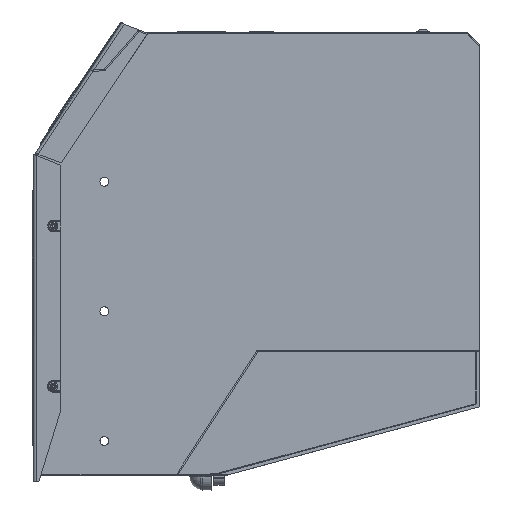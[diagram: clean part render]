
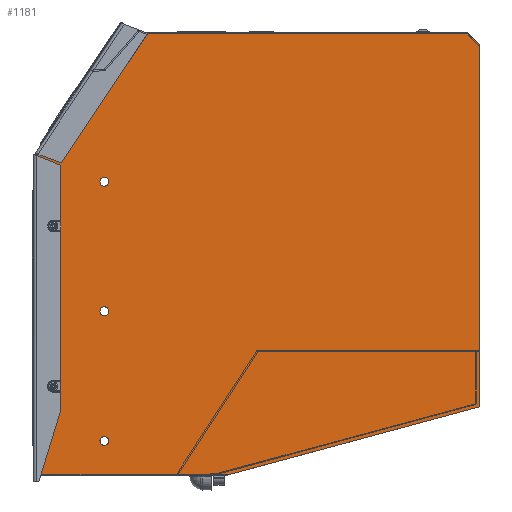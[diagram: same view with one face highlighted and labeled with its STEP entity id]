
A CAD part, left-side view. The second image highlights one B-rep face of the part: STEP entity #1181.
In plain terms, the highlighted planar face has unit normal (-1, 0, 0).
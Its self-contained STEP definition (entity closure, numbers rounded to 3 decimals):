
#984=CARTESIAN_POINT('',(-250.,324.,-324.));
#985=VERTEX_POINT('',#984);
#992=CARTESIAN_POINT('',(-250.,325.,-323.));
#993=VERTEX_POINT('',#992);
#994=CARTESIAN_POINT('',(-250.0,324.,-323.));
#995=DIRECTION('',(1.0,0.0,0.0));
#996=DIRECTION('',(0.0,0.707,-0.707));
#997=AXIS2_PLACEMENT_3D('',#994,#995,#996);
#998=CIRCLE('',#997,1.0);
#999=EDGE_CURVE('',#985,#993,#998,.T.);
#1010=CARTESIAN_POINT('',(-250.0,-1.368,1.201));
#1011=DIRECTION('',(1.0,0.0,0.0));
#1012=DIRECTION('',(0.0,0.0,-1.0));
#1013=AXIS2_PLACEMENT_3D('',#1010,#1011,#1012);
#1014=PLANE('',#1013);
#1015=ORIENTED_EDGE('',*,*,#999,.F.);
#1016=CARTESIAN_POINT('',(-250.,45.266,-324.));
#1017=VERTEX_POINT('',#1016);
#1018=CARTESIAN_POINT('',(-250.,324.,-324.));
#1019=DIRECTION('',(0.0,-1.0,0.0));
#1020=VECTOR('',#1019,278.734);
#1021=LINE('',#1018,#1020);
#1022=EDGE_CURVE('',#985,#1017,#1021,.T.);
#1023=ORIENTED_EDGE('',*,*,#1022,.T.);
#1024=CARTESIAN_POINT('',(-250.,44.744,-323.931));
#1025=VERTEX_POINT('',#1024);
#1026=CARTESIAN_POINT('',(-250.0,45.266,-322.0));
#1027=DIRECTION('',(1.0,0.0,0.0));
#1028=DIRECTION('',(0.0,-0.132,-0.991));
#1029=AXIS2_PLACEMENT_3D('',#1026,#1027,#1028);
#1030=CIRCLE('',#1029,2.0);
#1031=EDGE_CURVE('',#1025,#1017,#1030,.T.);
#1032=ORIENTED_EDGE('',*,*,#1031,.F.);
#1033=CARTESIAN_POINT('',(-250.,-323.522,-224.4));
#1034=VERTEX_POINT('',#1033);
#1035=CARTESIAN_POINT('',(-250.,44.744,-323.931));
#1036=DIRECTION('',(0.0,-0.965,0.261));
#1037=VECTOR('',#1036,381.479);
#1038=LINE('',#1035,#1037);
#1039=EDGE_CURVE('',#1025,#1034,#1038,.T.);
#1040=ORIENTED_EDGE('',*,*,#1039,.T.);
#1041=CARTESIAN_POINT('',(-250.,-325.,-222.469));
#1042=VERTEX_POINT('',#1041);
#1043=CARTESIAN_POINT('',(-250.0,-323.,-222.469));
#1044=DIRECTION('',(1.0,0.0,0.0));
#1045=DIRECTION('',(0.0,-0.794,-0.608));
#1046=AXIS2_PLACEMENT_3D('',#1043,#1044,#1045);
#1047=CIRCLE('',#1046,2.0);
#1048=EDGE_CURVE('',#1042,#1034,#1047,.T.);
#1049=ORIENTED_EDGE('',*,*,#1048,.F.);
#1050=CARTESIAN_POINT('',(-250.,-325.,305.172));
#1051=VERTEX_POINT('',#1050);
#1052=CARTESIAN_POINT('',(-250.,-325.,-222.469));
#1053=DIRECTION('',(0.0,0.0,1.0));
#1054=VECTOR('',#1053,527.64);
#1055=LINE('',#1052,#1054);
#1056=EDGE_CURVE('',#1042,#1051,#1055,.T.);
#1057=ORIENTED_EDGE('',*,*,#1056,.T.);
#1058=CARTESIAN_POINT('',(-250.,-324.414,306.586));
#1059=VERTEX_POINT('',#1058);
#1060=CARTESIAN_POINT('',(-250.0,-323.,305.172));
#1061=DIRECTION('',(1.0,0.0,0.0));
#1062=DIRECTION('',(0.0,-0.924,0.383));
#1063=AXIS2_PLACEMENT_3D('',#1060,#1061,#1062);
#1064=CIRCLE('',#1063,2.0);
#1065=EDGE_CURVE('',#1059,#1051,#1064,.T.);
#1066=ORIENTED_EDGE('',*,*,#1065,.F.);
#1067=CARTESIAN_POINT('',(-250.,-307.586,323.414));
#1068=VERTEX_POINT('',#1067);
#1069=CARTESIAN_POINT('',(-250.,-324.414,306.586));
#1070=DIRECTION('',(0.0,0.707,0.707));
#1071=VECTOR('',#1070,23.799);
#1072=LINE('',#1069,#1071);
#1073=EDGE_CURVE('',#1059,#1068,#1072,.T.);
#1074=ORIENTED_EDGE('',*,*,#1073,.T.);
#1075=CARTESIAN_POINT('',(-250.,-306.172,324.));
#1076=VERTEX_POINT('',#1075);
#1077=CARTESIAN_POINT('',(-250.0,-306.172,322.));
#1078=DIRECTION('',(1.0,0.0,0.0));
#1079=DIRECTION('',(0.0,-0.383,0.924));
#1080=AXIS2_PLACEMENT_3D('',#1077,#1078,#1079);
#1081=CIRCLE('',#1080,2.0);
#1082=EDGE_CURVE('',#1076,#1068,#1081,.T.);
#1083=ORIENTED_EDGE('',*,*,#1082,.F.);
#1084=CARTESIAN_POINT('',(-250.,174.063,324.));
#1085=VERTEX_POINT('',#1084);
#1086=CARTESIAN_POINT('',(-250.,-306.172,324.));
#1087=DIRECTION('',(0.0,1.0,0.0));
#1088=VECTOR('',#1087,480.235);
#1089=LINE('',#1086,#1088);
#1090=EDGE_CURVE('',#1076,#1085,#1089,.T.);
#1091=ORIENTED_EDGE('',*,*,#1090,.T.);
#1092=CARTESIAN_POINT('',(-250.,175.6,323.28));
#1093=VERTEX_POINT('',#1092);
#1094=CARTESIAN_POINT('',(-250.0,174.063,322.0));
#1095=DIRECTION('',(1.0,0.0,0.0));
#1096=DIRECTION('',(0.0,0.424,0.906));
#1097=AXIS2_PLACEMENT_3D('',#1094,#1095,#1096);
#1098=CIRCLE('',#1097,2.0);
#1099=EDGE_CURVE('',#1093,#1085,#1098,.T.);
#1100=ORIENTED_EDGE('',*,*,#1099,.F.);
#1101=CARTESIAN_POINT('',(-250.,324.536,144.556));
#1102=VERTEX_POINT('',#1101);
#1103=CARTESIAN_POINT('',(-250.,175.6,323.28));
#1104=DIRECTION('',(0.0,0.64,-0.768));
#1105=VECTOR('',#1104,232.647);
#1106=LINE('',#1103,#1105);
#1107=EDGE_CURVE('',#1093,#1102,#1106,.T.);
#1108=ORIENTED_EDGE('',*,*,#1107,.T.);
#1109=CARTESIAN_POINT('',(-250.,325.,143.276));
#1110=VERTEX_POINT('',#1109);
#1111=CARTESIAN_POINT('',(-250.0,323.,143.276));
#1112=DIRECTION('',(1.0,0.0,0.0));
#1113=DIRECTION('',(0.0,0.94,0.34));
#1114=AXIS2_PLACEMENT_3D('',#1111,#1112,#1113);
#1115=CIRCLE('',#1114,2.0);
#1116=EDGE_CURVE('',#1110,#1102,#1115,.T.);
#1117=ORIENTED_EDGE('',*,*,#1116,.F.);
#1118=CARTESIAN_POINT('',(-250.,325.,143.276));
#1119=DIRECTION('',(0.0,0.0,-1.0));
#1120=VECTOR('',#1119,466.276);
#1121=LINE('',#1118,#1120);
#1122=EDGE_CURVE('',#1110,#993,#1121,.T.);
#1123=ORIENTED_EDGE('',*,*,#1122,.T.);
#1124=EDGE_LOOP('',(#1015,#1023,#1032,#1040,#1049,#1057,#1066,#1074,#1083,#1091,#1100,#1108,#1117,#1123));
#1125=FACE_OUTER_BOUND('',#1124,.T.);
#1126=CARTESIAN_POINT('',(-250.,300.,-190.5));
#1127=VERTEX_POINT('',#1126);
#1128=CARTESIAN_POINT('',(-250.0,300.,-194.));
#1129=DIRECTION('',(1.0,0.0,0.0));
#1130=DIRECTION('',(0.0,0.0,-1.0));
#1131=AXIS2_PLACEMENT_3D('',#1128,#1129,#1130);
#1132=CIRCLE('',#1131,3.5);
#1133=EDGE_CURVE('',#1127,#1127,#1132,.T.);
#1134=ORIENTED_EDGE('',*,*,#1133,.T.);
#1135=EDGE_LOOP('',(#1134));
#1136=FACE_BOUND('',#1135,.T.);
#1137=CARTESIAN_POINT('',(-250.,300.,44.5));
#1138=VERTEX_POINT('',#1137);
#1139=CARTESIAN_POINT('',(-250.0,300.,41.));
#1140=DIRECTION('',(1.0,0.0,0.0));
#1141=DIRECTION('',(0.0,0.0,-1.0));
#1142=AXIS2_PLACEMENT_3D('',#1139,#1140,#1141);
#1143=CIRCLE('',#1142,3.5);
#1144=EDGE_CURVE('',#1138,#1138,#1143,.T.);
#1145=ORIENTED_EDGE('',*,*,#1144,.T.);
#1146=EDGE_LOOP('',(#1145));
#1147=FACE_BOUND('',#1146,.T.);
#1148=CARTESIAN_POINT('',(-250.,225.,-267.5));
#1149=VERTEX_POINT('',#1148);
#1150=CARTESIAN_POINT('',(-250.0,225.,-274.0));
#1151=DIRECTION('',(1.0,0.0,0.0));
#1152=DIRECTION('',(0.0,0.0,-1.0));
#1153=AXIS2_PLACEMENT_3D('',#1150,#1151,#1152);
#1154=CIRCLE('',#1153,6.5);
#1155=EDGE_CURVE('',#1149,#1149,#1154,.T.);
#1156=ORIENTED_EDGE('',*,*,#1155,.T.);
#1157=EDGE_LOOP('',(#1156));
#1158=FACE_BOUND('',#1157,.T.);
#1159=CARTESIAN_POINT('',(-250.,225.,-77.5));
#1160=VERTEX_POINT('',#1159);
#1161=CARTESIAN_POINT('',(-250.0,225.,-84.));
#1162=DIRECTION('',(1.0,0.0,0.0));
#1163=DIRECTION('',(0.0,0.0,-1.0));
#1164=AXIS2_PLACEMENT_3D('',#1161,#1162,#1163);
#1165=CIRCLE('',#1164,6.5);
#1166=EDGE_CURVE('',#1160,#1160,#1165,.T.);
#1167=ORIENTED_EDGE('',*,*,#1166,.T.);
#1168=EDGE_LOOP('',(#1167));
#1169=FACE_BOUND('',#1168,.T.);
#1170=CARTESIAN_POINT('',(-250.,225.,112.5));
#1171=VERTEX_POINT('',#1170);
#1172=CARTESIAN_POINT('',(-250.0,225.,106.));
#1173=DIRECTION('',(1.0,0.0,0.0));
#1174=DIRECTION('',(0.0,0.0,-1.0));
#1175=AXIS2_PLACEMENT_3D('',#1172,#1173,#1174);
#1176=CIRCLE('',#1175,6.5);
#1177=EDGE_CURVE('',#1171,#1171,#1176,.T.);
#1178=ORIENTED_EDGE('',*,*,#1177,.T.);
#1179=EDGE_LOOP('',(#1178));
#1180=FACE_BOUND('',#1179,.T.);
#1181=ADVANCED_FACE('',(#1125,#1136,#1147,#1158,#1169,#1180),#1014,.F.);
